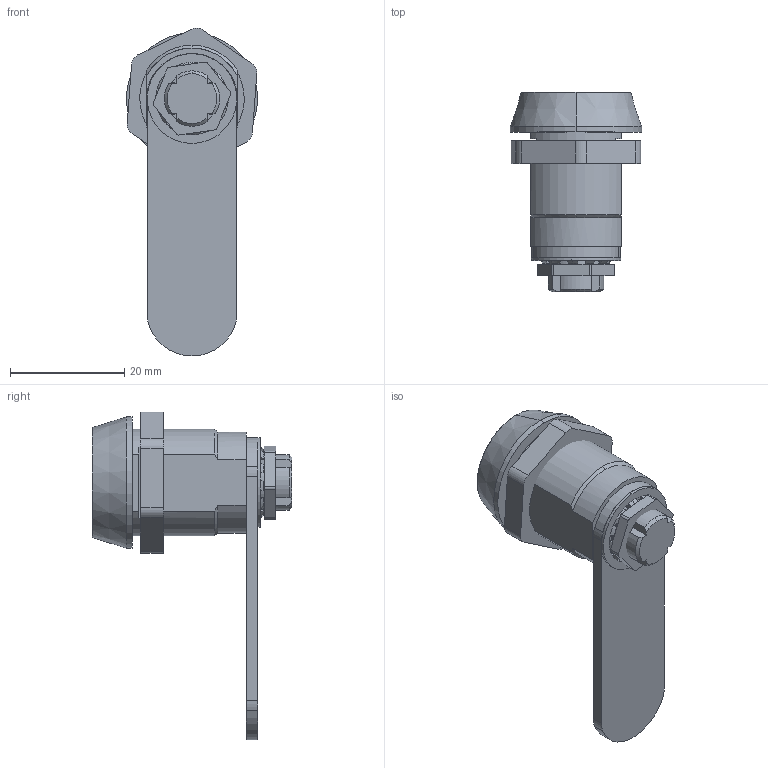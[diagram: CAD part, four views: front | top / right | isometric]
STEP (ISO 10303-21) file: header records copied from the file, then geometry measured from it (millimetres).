
FILE_DESCRIPTION (( 'STEP AP214' ), '1' );
FILE_NAME ('Zamek Z-2106.STEP', '2010-02-22T16:39:43', ( '£ukaszC' ), ( '' ), 'SwSTEP 2.0', 'SolidWorks 2008', '' );
FILE_SCHEMA (( 'AUTOMOTIVE_DESIGN' ));
Length unit declared in the file: millimetre
Products named in the file (7): Jêzyk Z-2106_Domyœlna; Nakrêtka  M  Z-2106_Domyœlna; Zamek Z-2106; Sworzeñ Z-2106_Domyœlna; Nakrêtka D  Z-2106_Domyœlna; Podk³adka Z-2106_Domyœlna; Korpus Z-2106_Domyœlna
Assembly tree (6 placements, depth 2):
  Zamek Z-2106
    Sworzeñ Z-2106_Domyœlna
    Korpus Z-2106_Domyœlna
    Jêzyk Z-2106_Domyœlna
    Podk³adka Z-2106_Domyœlna
    Nakrêtka D  Z-2106_Domyœlna
    Nakrêtka  M  Z-2106_Domyœlna
Bounding box: 23 x 35 x 57.46 mm (x, y, z)
Volume: 8504.7 mm3; surface area: 9259.4 mm2
Topology: 6 solids, 6 shells, 443 faces, 1159 edges, 729 vertices
Faces by surface type: plane 151, cylinder 135, bspline 134, cone 23
Entity records: 16721 total; most frequent: CARTESIAN_POINT 6388, ORIENTED_EDGE 2318, DIRECTION 1920, EDGE_CURVE 1159, AXIS2_PLACEMENT_3D 737, VERTEX_POINT 729, EDGE_LOOP 458, VECTOR 446
